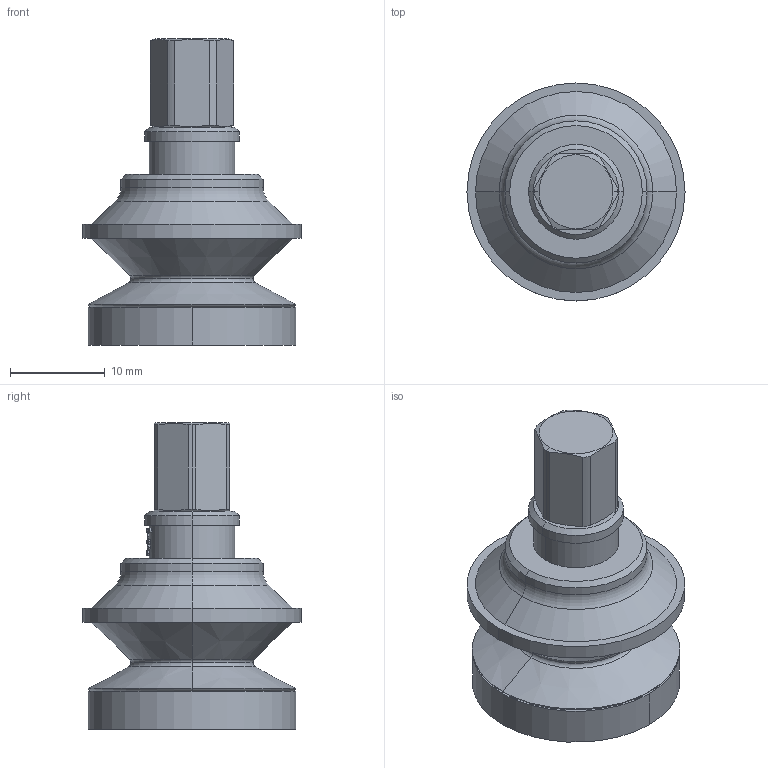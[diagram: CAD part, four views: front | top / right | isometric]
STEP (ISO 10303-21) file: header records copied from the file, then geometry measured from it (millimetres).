
FILE_DESCRIPTION (( 'STEP AP203' ), '1' );
FILE_NAME ('0321605.STEP', '2023-05-11T08:02:39', ( '' ), ( '' ), 'SwSTEP 2.0', 'SolidWorks 2022', '' );
FILE_SCHEMA (( 'CONFIG_CONTROL_DESIGN' ));
Length unit declared in the file: millimetre
Products named in the file (2): 0321605; Copy of 0321605-AS01^0321605
Assembly tree (1 placements, depth 2):
  0321605
    Copy of 0321605-AS01^0321605
Bounding box: 23 x 23 x 32.3 mm (x, y, z)
Volume: 5859.1 mm3; surface area: 2494.9 mm2
Topology: 1 solids, 1 shells, 89 faces, 189 edges, 120 vertices
Faces by surface type: cylinder 29, bspline 24, cone 14, plane 14, torus 8
Entity records: 3687 total; most frequent: CARTESIAN_POINT 1746, ORIENTED_EDGE 378, DIRECTION 311, EDGE_CURVE 189, AXIS2_PLACEMENT_3D 137, VERTEX_POINT 120, EDGE_LOOP 107, FACE_OUTER_BOUND 89
